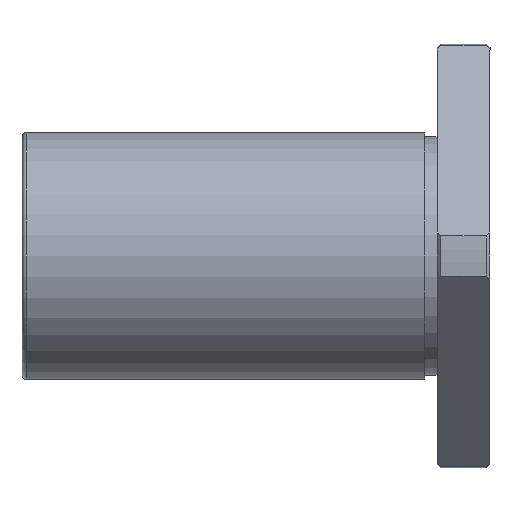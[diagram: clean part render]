
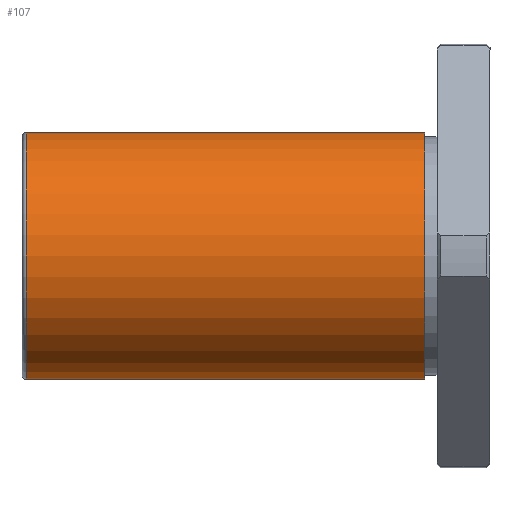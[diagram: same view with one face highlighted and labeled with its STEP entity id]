
A CAD part, front view. The second image highlights one B-rep face of the part: STEP entity #107.
In plain terms, the highlighted cylindrical face has radius 14 mm (diameter 28 mm), a full revolution.
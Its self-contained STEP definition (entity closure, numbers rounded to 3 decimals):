
#107=ADVANCED_FACE('',(#200,#201),#202,.T.);
#200=FACE_OUTER_BOUND('',#300,.T.);
#201=FACE_OUTER_BOUND('',#301,.T.);
#202=CYLINDRICAL_SURFACE('',#302,14.0);
#300=EDGE_LOOP('',(#542));
#301=EDGE_LOOP('',(#543));
#302=AXIS2_PLACEMENT_3D('',#544,#545,#546);
#542=ORIENTED_EDGE('',*,*,#630,.T.);
#543=ORIENTED_EDGE('',*,*,#631,.T.);
#544=CARTESIAN_POINT('',(-21.95,0.0,0.));
#545=DIRECTION('',(-1.0,-0.0,0.));
#546=DIRECTION('',(0.0,1.0,0.0));
#630=EDGE_CURVE('',#753,#753,#754,.F.);
#631=EDGE_CURVE('',#755,#755,#756,.T.);
#753=VERTEX_POINT('',#1039);
#754=CIRCLE('',#1040,14.0);
#755=VERTEX_POINT('',#1041);
#756=CIRCLE('',#1042,14.0);
#1039=CARTESIAN_POINT('',(-52.5,0.,14.0));
#1040=AXIS2_PLACEMENT_3D('',#1169,#1170,#1171);
#1041=CARTESIAN_POINT('',(-7.4,14.0,0.0));
#1042=AXIS2_PLACEMENT_3D('',#1172,#1173,#1174);
#1169=CARTESIAN_POINT('',(-52.5,0.0,0.));
#1170=DIRECTION('',(-1.0,0.,0.));
#1171=DIRECTION('',(0.,0.0,1.0));
#1172=CARTESIAN_POINT('',(-7.4,0.0,0.0));
#1173=DIRECTION('',(-1.0,0.0,0.));
#1174=DIRECTION('',(0.0,1.0,0.0));
